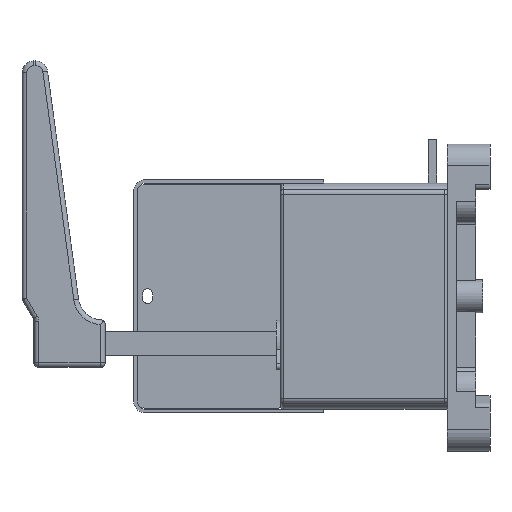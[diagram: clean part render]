
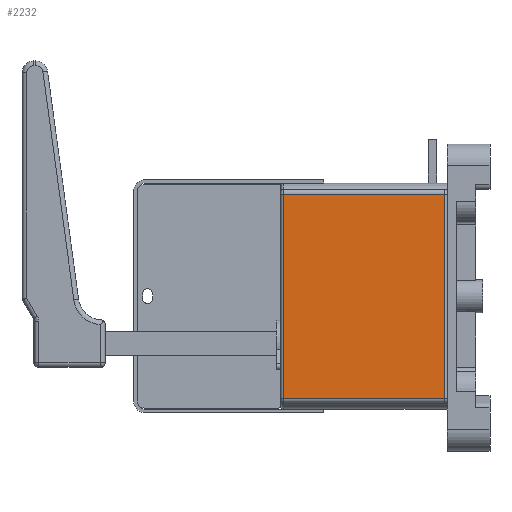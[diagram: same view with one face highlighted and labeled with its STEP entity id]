
A CAD part, left-side view. The second image highlights one B-rep face of the part: STEP entity #2232.
In plain terms, the highlighted planar face has unit normal (-1, 0, 0).
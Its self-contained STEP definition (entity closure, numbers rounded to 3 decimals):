
#2232=ADVANCED_FACE('',(#3578),#2781,.F.);
#2781=PLANE('',#18614);
#3578=FACE_OUTER_BOUND('',#4644,.T.);
#4644=EDGE_LOOP('',(#9257,#9258,#9259,#9260));
#9257=ORIENTED_EDGE('',*,*,#13581,.F.);
#9258=ORIENTED_EDGE('',*,*,#13566,.T.);
#9259=ORIENTED_EDGE('',*,*,#13582,.T.);
#9260=ORIENTED_EDGE('',*,*,#13266,.T.);
#10965=VERTEX_POINT('',#27794);
#10967=VERTEX_POINT('',#27800);
#11159=VERTEX_POINT('',#28496);
#11163=VERTEX_POINT('',#28528);
#13266=EDGE_CURVE('',#10965,#10967,#15160,.T.);
#13566=EDGE_CURVE('',#11159,#11163,#15314,.T.);
#13581=EDGE_CURVE('',#11159,#10967,#15321,.T.);
#13582=EDGE_CURVE('',#11163,#10965,#15322,.T.);
#15160=LINE('',#27801,#16900);
#15314=LINE('',#28529,#17054);
#15321=LINE('',#28582,#17061);
#15322=LINE('',#28584,#17062);
#16900=VECTOR('',#22724,1.);
#17054=VECTOR('',#23374,1.);
#17061=VECTOR('',#23401,1.);
#17062=VECTOR('',#23404,1.);
#18614=AXIS2_PLACEMENT_3D('',#28585,#23405,#23406);
#22724=DIRECTION('',(0.,0.,1.));
#23374=DIRECTION('',(0.,0.,-1.));
#23401=DIRECTION('',(0.,-1.,0.));
#23404=DIRECTION('',(0.,-1.,0.));
#23405=DIRECTION('',(1.,0.,0.));
#23406=DIRECTION('',(0.,0.,-1.));
#27794=CARTESIAN_POINT('',(-41.,1.,-43.));
#27800=CARTESIAN_POINT('',(-41.,1.,43.));
#27801=CARTESIAN_POINT('',(-41.,1.,-43.));
#28496=CARTESIAN_POINT('',(-41.,69.,43.));
#28528=CARTESIAN_POINT('',(-41.,69.,-43.));
#28529=CARTESIAN_POINT('',(-41.,69.,-43.));
#28582=CARTESIAN_POINT('',(-41.,35.,43.));
#28584=CARTESIAN_POINT('',(-41.,35.,-43.));
#28585=CARTESIAN_POINT('',(-41.,35.,-43.));
